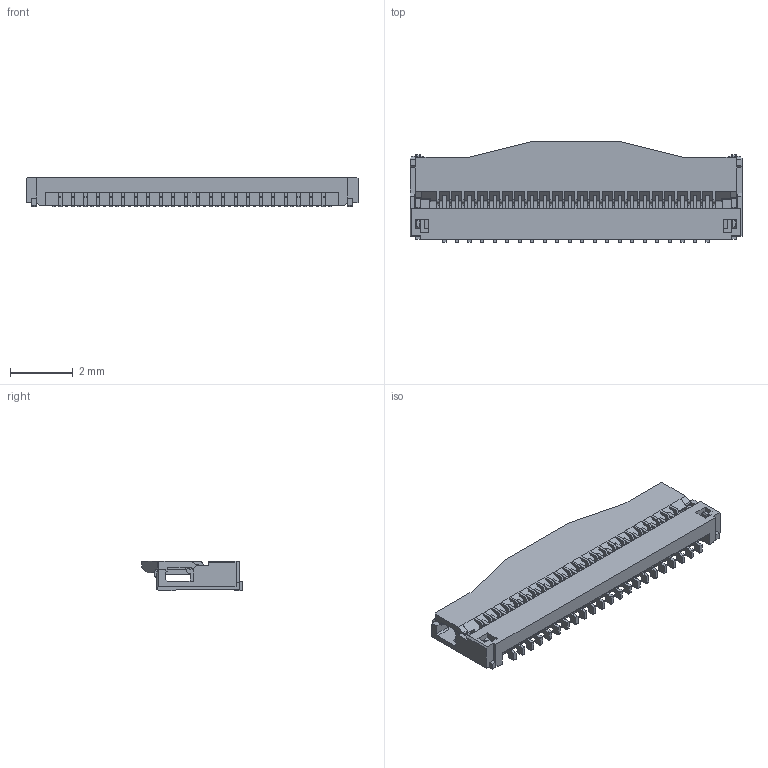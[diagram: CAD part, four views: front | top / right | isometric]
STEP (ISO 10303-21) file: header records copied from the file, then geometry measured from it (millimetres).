
FILE_DESCRIPTION(('CATIA V5 STEP Exchange'),'2;1');
FILE_NAME('Z:\trashbox\3D 備用 (編集厳禁)\3D 備用6xxx\6866-李-2 (PIN可変）拘束済\6866 NEW形状 01.28.14使用可\勘合口0.1拡大　CONT 位置不変\作業用\11.12.14\04_6866_745_000_846_+.stp','2014-11-12T02:17:46+00:00',('none'),('none'),'CATIA Version 5 Release 19 SP 9 (IN-10)','CATIA V5 STEP AP214','none');
FILE_SCHEMA(('AUTOMOTIVE_DESIGN { 1 0 10303 214 1 1 1 1 }'));
Length unit declared in the file: millimetre
Products named in the file (1): Part1
Bounding box: 10.6 x 3.21 x 0.95 mm (x, y, z)
Volume: 17.6 mm3; surface area: 149.6 mm2
Topology: 1 solids, 1 shells, 1310 faces, 4176 edges, 2774 vertices
Faces by surface type: plane 1019, cylinder 291
Entity records: 40439 total; most frequent: ORIENTED_EDGE 8352, CARTESIAN_POINT 7334, DIRECTION 4808, EDGE_CURVE 4176, VECTOR 3564, LINE 3564, VERTEX_POINT 2774, EDGE_LOOP 1336
